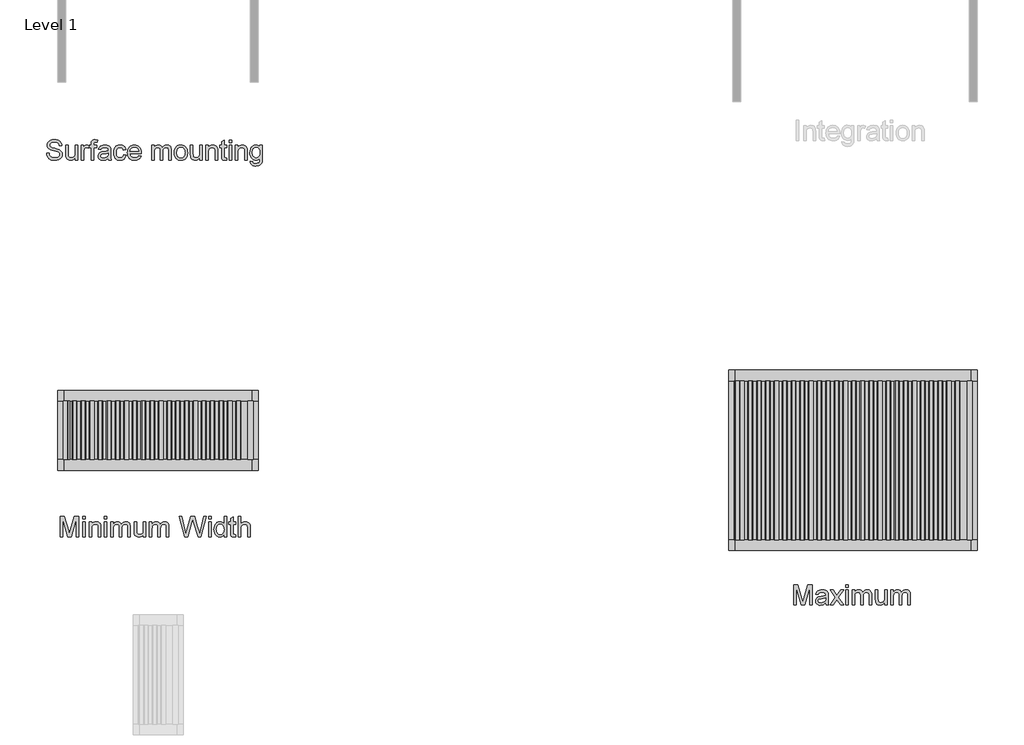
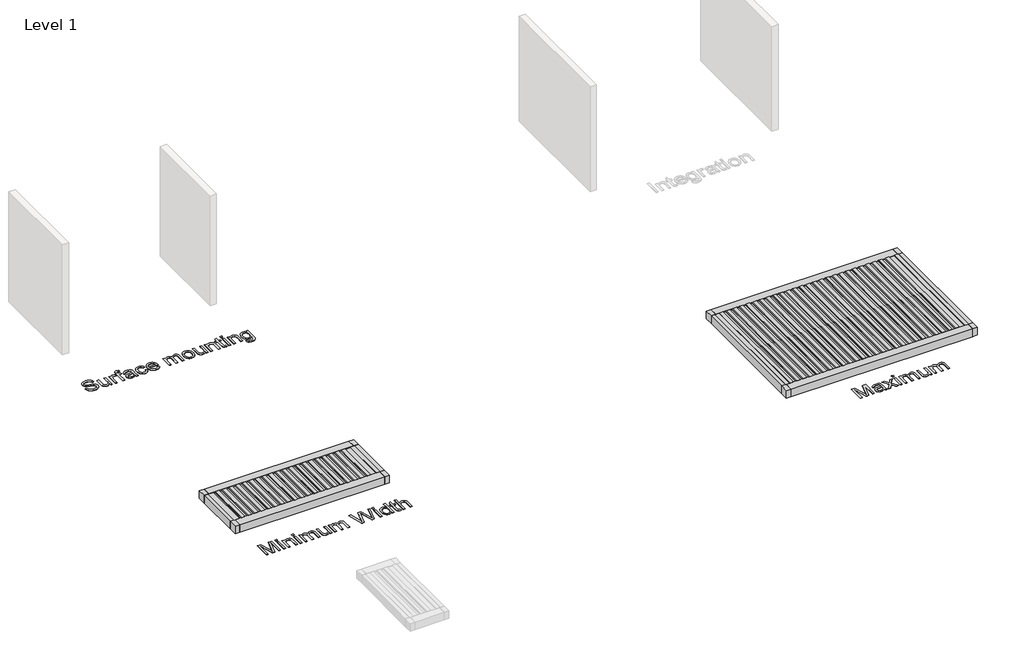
# One storey, part 5 of 12: 5 proxies.
"""IFC4 building model written with IfcOpenShell, lengths in millimetres."""

from ifc_helpers import new_model, si_unit, origin, origin_with_axes, place, context, project, spatial, polyline, outline, extrude, transform, mapped, element, save
from components import generic_models_8f469894, generic_models_3aa09e42

model = new_model("IFC4")

# Units and contexts
model_context = context("Model", 3, world=origin())
ifc_project = project(units=[si_unit("LENGTHUNIT", "METRE", prefix="MILLI")], contexts=[model_context])

# Site, building, storey
site = spatial("IfcSite", under=ifc_project)
building = spatial("IfcBuilding", under=site)
storey = spatial("IfcBuildingStorey", under=building, Name="Level 1", Elevation=0.0)

# Proxies
placement = place(None, origin())
generic_models_shape = generic_models_8f469894(model_context)
element("IfcBuildingElementProxy", 1, Name="Renson_Aero_Skye_Patio covers : Aero Skye - Single", ObjectType="Renson_Aero_Skye_Patio covers : Aero Skye - Single", at=placement, inside=storey, context=model_context, shape_type="MappedRepresentation", body=[
    mapped(generic_models_shape, transform((38903.1736148, -9898.4078371, 0.0), x_axis=(1.0, 0.0, 0.0), y_axis=(0.0, 1.0, 0.0), z_axis=(0.0, 0.0, 1.0))),
])
generic_models_2_shape = generic_models_3aa09e42(model_context)
element("IfcBuildingElementProxy", 2, Name="Renson_Aero_Skye_Patio covers : Aero Skye - Single", ObjectType="Renson_Aero_Skye_Patio covers : Aero Skye - Single", at=placement, inside=storey, context=model_context, shape_type="MappedRepresentation", body=[
    mapped(generic_models_2_shape, transform((56233.8596032, -10648.4078371, 0.0), x_axis=(1.0, 0.0, 0.0), y_axis=(0.0, 1.0, 0.0), z_axis=(0.0, 0.0, 1.0))),
])
element("IfcBuildingElementProxy", 3, Name="500mm Arial", ObjectType="500mm Arial", at=placement, inside=storey, context=model_context, shape_type="SweptSolid", body=[
    extrude(outline(polyline([(36118.8063744, -2981.5334316), (36181.5915683, -2981.5334316), (36188.795924, -3016.3749223), (36201.825078, -3044.3799392), (36222.1505582, -3066.606143), (36251.2438927, -3084.1111946), (36286.8058189, -3095.4695512), (36326.5370744, -3099.2556701), (36361.5165207, -3096.3892562), (36392.1426968, -3087.7900146), (36416.9594031, -3074.1783808), (36434.51044, -3056.2747903), (36444.9490916, -3035.7193838), (36448.4286421, -3014.1523019), (36445.8228113, -2993.1370429), (36438.0053189, -2974.9728694), (36422.1250795, -2959.4758403), (36395.3310075, -2946.4620148), (36303.9123317, -2922.4883714), (36243.9015812, -2906.6234604), (36205.503898, -2891.5249702), (36174.2492568, -2870.4024123), (36152.099695, -2844.8039568), (36138.9019284, -2815.2814267), (36134.5026729, -2782.3866449), (36139.9442607, -2745.6137738), (36156.2690243, -2711.3241062), (36168.405298, -2695.7964203), (36183.0477678, -2682.2614286), (36219.8512958, -2661.1695275), (36264.027792, -2648.3396429), (36312.9254406, -2644.0630147), (36365.9004479, -2648.5389123), (36412.2535792, -2661.9666052), (36450.3293657, -2684.0701817), (36465.6424538, -2698.2719596), (36478.4723384, -2714.5737305), (36496.2839583, -2751.5765278), (36503.3656867, -2793.1778501), (36440.5804929, -2793.1778501), (36436.3805068, -2773.1436098), (36429.0535237, -2755.7152003), (36418.5995437, -2740.8926215), (36405.0185667, -2728.6758736), (36388.0576739, -2719.1262702), (36367.4639463, -2712.3051248), (36315.3779872, -2706.8482086), (36262.0657547, -2712.2438112), (36241.686625, -2718.9883144), (36225.492153, -2728.430619), (36213.1527778, -2739.7813114), (36204.3389383, -2752.2509781), (36199.0506346, -2765.8396193), (36197.2878667, -2780.5472349), (36202.2849305, -2804.6741625), (36217.2761218, -2824.0799377), (36231.0410398, -2832.7098362), (36252.7154207, -2841.4317051), (36319.7925711, -2859.1513546), (36389.0156999, -2875.9819559), (36430.8929337, -2890.6665788), (36466.6847861, -2913.4446057), (36491.6547765, -2941.5569215), (36506.3240711, -2974.6969579), (36511.213836, -3012.5581466), (36505.5883071, -3051.2623981), (36488.7117206, -3087.6673872), (36461.2738551, -3118.9986705), (36423.9644894, -3142.4818045), (36379.0982144, -3157.1510991), (36328.989621, -3162.0408639), (36267.4766857, -3156.7678887), (36240.801409, -3150.1766696), (36216.8469261, -3140.9489629), (36195.4676173, -3129.0694401), (36176.5178624, -3114.5227729), (36159.9976616, -3097.3089612), (36145.9070147, -3077.4280051), (36134.5563223, -3055.5236979), (36126.2559848, -3032.2398333), (36121.0060022, -3007.5764112), (36118.8063744, -2981.5334316)])), origin_with_axes(), (0.0, 0.0, 1.0), 5.0),
    extrude(outline(polyline([(36832.9879544, -3154.1927147), (36832.9879544, -3090.7943842), (36810.2712412, -3121.9647191), (36783.8143944, -3144.229244), (36753.6174139, -3157.587959), (36719.6802999, -3162.0408639), (36689.100109, -3158.913867), (36660.6352397, -3149.5328761), (36636.7535668, -3135.430733), (36619.9229655, -3118.1402792), (36608.5952658, -3097.1403486), (36601.2222974, -3071.9097751), (36597.5434775, -3013.5391652), (36597.5434775, -2785.3297009), (36660.3286713, -2785.3297009), (36660.3286713, -2983.9859783), (36664.1301186, -3047.9974454), (36673.2811832, -3069.3499296), (36688.9621533, -3085.5827226), (36710.1306964, -3095.8374332), (36735.7444803, -3099.2556701), (36762.8297922, -3095.7607911), (36788.1676647, -3085.2761543), (36809.0602963, -3068.7674497), (36822.8098859, -3047.2003678), (36830.4434373, -3017.6625093), (36832.9879544, -2977.241475), (36832.9879544, -2785.3297009), (36895.7731482, -2785.3297009), (36895.7731482, -3154.1927147), (36832.9879544, -3154.1927147)])), origin_with_axes(), (0.0, 0.0, 1.0), 5.0),
    extrude(outline(polyline([(36982.1027898, -3154.1927147), (36982.1027898, -2785.3297009), (37037.0398344, -2785.3297009), (37037.0398344, -2839.8988635), (37057.3346578, -2808.2610119), (37076.0353259, -2789.6216575), (37094.7973076, -2780.5165781), (37115.276072, -2777.4815516), (37146.5460416, -2782.3253313), (37178.3065205, -2796.8566701), (37157.3372468, -2853.1426153), (37135.2643271, -2843.485713), (37113.1914074, -2840.2667455), (37094.4447541, -2843.3630856), (37077.6907949, -2852.652106), (37064.1558031, -2867.4286995), (37055.0660522, -2886.9877589), (37047.4325008, -2922.0591758), (37044.8879836, -2960.3189033), (37044.8879836, -3154.1927147), (36982.1027898, -3154.1927147)])), origin_with_axes(), (0.0, 0.0, 1.0), 5.0),
    extrude(outline(polyline([(37233.2435652, -3154.1927147), (37233.2435652, -2848.1148947), (37178.3065205, -2848.1148947), (37178.3065205, -2785.3297009), (37233.2435652, -2785.3297009), (37233.2435652, -2748.1736194), (37234.8990341, -2717.4248159), (37239.8654411, -2695.8117487), (37252.4960562, -2674.9344455), (37271.993802, -2658.4104125), (37299.2783833, -2647.6498642), (37335.2695051, -2644.0630147), (37392.5364691, -2650.9301453), (37383.3394192, -2709.7912645), (37347.1643563, -2706.8482086), (37323.2980119, -2709.4540394), (37307.6170418, -2717.2715318), (37298.9258297, -2732.2014094), (37296.028759, -2756.1443959), (37296.028759, -2785.3297009), (37366.6621021, -2785.3297009), (37366.6621021, -2848.1148947), (37296.028759, -2848.1148947), (37296.028759, -3154.1927147), (37233.2435652, -3154.1927147)])), origin_with_axes(), (0.0, 0.0, 1.0), 5.0),
    extrude(outline(polyline([(37657.0436236, -3107.1038193), (37627.0459126, -3132.8249022), (37596.1591534, -3149.6555034), (37563.6782389, -3158.9445238), (37528.8980619, -3162.0408639), (37500.9428624, -3160.1784613), (37476.4288924, -3154.5912535), (37455.3561518, -3145.2792405), (37437.7246408, -3132.2424223), (37423.8026065, -3116.3085334), (37413.8582964, -3098.3053083), (37407.8917103, -3078.2327469), (37405.9028482, -3056.0908493), (37408.9072178, -3030.0631982), (37417.9203267, -3006.42678), (37431.8232005, -2986.1932702), (37449.4968646, -2970.3743445), (37470.266869, -2958.4181796), (37493.4587631, -2949.7729527), (37547.782671, -2940.3306482), (37611.9780792, -2930.3978343), (37656.6757416, -2918.7482378), (37657.0436236, -2904.768722), (37652.7210102, -2876.7483767), (37639.7531698, -2858.4155906), (37626.6780306, -2850.4754709), (37610.7518059, -2844.8039568), (37570.3461001, -2840.2667455), (37532.9447639, -2843.2864435), (37506.8251422, -2852.3455377), (37489.0135223, -2869.0994969), (37476.5361913, -2895.2037901), (37413.7509975, -2887.3556409), (37424.6495016, -2853.019988), (37440.9129514, -2826.041975), (37464.0588603, -2805.4099265), (37495.6047414, -2790.1121668), (37534.1863656, -2780.6392054), (37578.439504, -2777.4815516), (37620.8838892, -2780.2713234), (37654.5297633, -2788.6406388), (37679.8982925, -2801.2252688), (37697.5106431, -2816.6609841), (37709.1908964, -2835.7448626), (37716.7631341, -2859.2739819), (37719.8288174, -2914.2110265), (37719.8288174, -2992.3246368), (37723.0171281, -3101.4016484), (37727.7382803, -3128.364333), (37735.5251159, -3154.1927147), (37672.7399221, -3154.1927147), (37662.6844809, -3132.3650497), (37657.0436236, -3107.1038193)]), holes=[polyline([(37657.0436236, -2981.5334316), (37614.8598215, -2991.9874117), (37555.7534476, -3000.7859227), (37501.736108, -3010.9639913), (37487.6799501, -3017.9230923), (37477.2719553, -3027.518681), (37470.8340204, -3039.0149934), (37468.6880421, -3051.6762654), (37473.3632091, -3070.3462766), (37487.3887102, -3085.6440363), (37510.4579769, -3095.8527616), (37542.2644411, -3099.2556701), (37575.9869573, -3095.5002081), (37605.7853989, -3084.233822), (37629.9429833, -3067.6331469), (37646.7429277, -3047.8748181), (37654.1925381, -3027.518681), (37656.6757416, -2999.3143947), (37657.0436236, -2981.5334316)])]), origin_with_axes(), (0.0, 0.0, 1.0), 5.0),
    extrude(outline(polyline([(38041.6029359, -3020.7741778), (38104.3881297, -3028.622327), (38097.5593202, -3058.2483239), (38086.8830781, -3084.4637482), (38072.3594035, -3107.2685998), (38053.9882964, -3126.6628787), (38032.5438418, -3142.1407473), (38008.8001246, -3153.1963676), (37982.7571451, -3159.8297399), (37954.414903, -3162.0408639), (37919.2016983, -3158.9560201), (37887.6289925, -3149.7014887), (37859.6967856, -3134.2772696), (37835.4050776, -3112.6833629), (37815.7425514, -3085.3259716), (37801.6978898, -3052.6112988), (37793.2710928, -3014.5393444), (37790.4621605, -2971.1101084), (37795.2599549, -2915.2380304), (37809.6533379, -2866.8155628), (37820.5058568, -2845.8654496), (37833.8722359, -2827.7127724), (37849.7524754, -2812.3575312), (37868.1465752, -2799.799726), (37909.1500892, -2783.0610952), (37953.5565117, -2777.4815516), (37981.4120765, -2779.3976037), (38006.6081611, -2785.1457599), (38029.1447654, -2794.7260202), (38049.0218895, -2808.1383846), (38065.9023081, -2825.0762848), (38079.4487961, -2845.2331524), (38089.6613536, -2868.6089875), (38096.5399805, -2895.2037901), (38033.7547867, -2903.0519393), (38022.3657732, -2875.6600591), (38004.6307954, -2856.0243576), (37981.5308718, -2844.2061485), (37954.047021, -2840.2667455), (37932.7136974, -2842.2057902), (37913.4727026, -2848.0229242), (37896.3240367, -2857.7181476), (37881.2676997, -2871.2914604), (37869.0087986, -2889.0570951), (37860.2524407, -2911.3292842), (37854.9986259, -2938.1080278), (37853.2473544, -2969.3933258), (37854.9603049, -3001.1499726), (37860.0991565, -3028.2391166), (37868.6639092, -3050.6607578), (37880.654563, -3068.4148962), (37895.4119959, -3081.9077348), (37912.2770862, -3091.5454766), (37931.2498336, -3097.3281217), (37952.3302384, -3099.2556701), (37984.8418097, -3094.4425473), (38011.4979259, -3080.003179), (38022.2776348, -3069.0816823), (38030.8883728, -3055.5696832), (38041.6029359, -3020.7741778)])), origin_with_axes(), (0.0, 0.0, 1.0), 5.0),
    extrude(outline(polyline([(38417.578335, -3044.3186255), (38479.1372555, -3052.1667747), (38469.698783, -3076.8225326), (38456.9570369, -3098.5505629), (38440.9120169, -3117.3508657), (38421.5637232, -3133.223441), (38399.1114252, -3145.8310635), (38373.7543923, -3154.8365082), (38345.4926244, -3160.239775), (38314.3261216, -3162.0408639), (38275.3689512, -3158.9330275), (38240.6577521, -3149.6095182), (38210.1925244, -3134.070336), (38183.973268, -3112.3154809), (38162.8890312, -3084.9504254), (38147.828862, -3052.580642), (38138.7927605, -3015.2061305), (38135.7807267, -2972.8268911), (38138.8234173, -2929.0106126), (38147.9514893, -2890.3906673), (38163.1649427, -2856.9670552), (38184.4637773, -2828.7397763), (38210.6140558, -2806.314303), (38240.3818406, -2790.2961078), (38273.7671317, -2780.6851907), (38310.769929, -2777.4815516), (38346.580942, -2780.6775265), (38378.9660539, -2790.265451), (38407.9252647, -2806.2453251), (38433.4585744, -2828.617149), (38454.3013887, -2856.7831142), (38469.1891132, -2890.1454127), (38478.1217479, -2928.7040443), (38481.0992928, -2972.4590091), (38480.7314108, -2989.3815809), (38198.5659205, -2989.3815809), (38202.2025873, -3014.4358776), (38209.4337678, -3036.3785058), (38220.2594619, -3055.2094654), (38234.6796697, -3070.9287565), (38251.8973135, -3083.3217812), (38271.1153156, -3092.1739417), (38292.3336761, -3097.485238), (38315.552395, -3099.2556701), (38348.9683429, -3095.975389), (38377.1113155, -3086.1345456), (38399.9813129, -3069.1200033), (38417.578335, -3044.3186255)]), holes=[polyline([(38198.5659205, -2926.596387), (38418.3140989, -2926.596387), (38409.8221562, -2893.4256938), (38393.1754959, -2869.6973051), (38376.0536548, -2856.8214353), (38356.5712374, -2847.6243854), (38334.728244, -2842.1061555), (38310.5246744, -2840.2667455), (38268.2029165, -2846.137529), (38249.7896562, -2853.4760084), (38233.2081417, -2863.7498795), (38219.2937717, -2876.4839615), (38208.8819448, -2891.2030734), (38201.9726611, -2907.9072153), (38198.5659205, -2926.596387)])]), origin_with_axes(), (0.0, 0.0, 1.0), 5.0),
    extrude(outline(polyline([(38740.0882174, -3154.1927147), (38740.0882174, -2785.3297009), (38802.8734112, -2785.3297009), (38802.8734112, -2846.0302301), (38821.7580203, -2818.1478405), (38846.038232, -2796.3048471), (38874.8863118, -2782.1873755), (38907.4745252, -2777.4815516), (38942.3926579, -2782.279346), (38970.3823464, -2796.6727291), (38991.2903064, -2819.711339), (39004.9632539, -2850.444814), (39027.8485797, -2818.5233867), (39053.9528729, -2795.7223672), (39083.2761336, -2782.0417555), (39115.8183618, -2777.4815516), (39140.9531327, -2779.3784432), (39163.0145561, -2785.0691178), (39182.002632, -2794.5535755), (39197.9173604, -2807.8318163), (39210.4981582, -2825.0571243), (39219.4844424, -2846.3827837), (39224.8762129, -2871.8087945), (39226.6734697, -2901.3351567), (39226.6734697, -3154.1927147), (39163.8882758, -3154.1927147), (39163.8882758, -2928.3131697), (39162.4320763, -2896.9972148), (39158.0634776, -2875.8899854), (39149.8781032, -2861.4352886), (39136.9715765, -2850.076932), (39120.3709015, -2842.7192921), (39101.103082, -2840.2667455), (39083.3106226, -2841.8379082), (39067.0893259, -2846.5513962), (39052.4391918, -2854.4072097), (39039.3602205, -2865.4053485), (39028.6035042, -2879.8677094), (39020.9201355, -2898.1161892), (39016.3101142, -2920.1507879), (39014.7734405, -2945.9715054), (39014.7734405, -3154.1927147), (38951.9882466, -3154.1927147), (38951.9882466, -2921.3234118), (38948.3554119, -2885.8227992), (38937.4569078, -2860.5002552), (38929.0301109, -2851.6480947), (38918.2810588, -2845.3251229), (38889.8161894, -2840.2667455), (38865.6279482, -2843.6389971), (38843.3404307, -2853.755752), (38824.9463309, -2870.3717554), (38812.4383431, -2893.2417528), (38805.2646442, -2924.9715749), (38802.8734112, -2968.1670525), (38802.8734112, -3154.1927147), (38740.0882174, -3154.1927147)])), origin_with_axes(), (0.0, 0.0, 1.0), 5.0),
    extrude(outline(polyline([(39305.154962, -2969.7612078), (39308.5502062, -2921.9901979), (39318.735939, -2880.8257355), (39335.7121602, -2846.2678205), (39359.4788699, -2818.3164531), (39383.406528, -2800.4511837), (39409.8173896, -2787.690277), (39438.7114547, -2780.033733), (39470.0887232, -2777.4815516), (39504.7271123, -2780.5893881), (39536.0468992, -2789.9128974), (39564.048084, -2805.4520796), (39588.7306666, -2827.2069347), (39608.8760379, -2854.4416986), (39623.2655889, -2886.4206075), (39631.8993195, -2923.1436612), (39634.7772297, -2964.6108599), (39629.6881954, -3028.0398472), (39623.3269026, -3054.0751626), (39614.4210926, -3076.3243591), (39603.0818965, -3095.5423612), (39589.4204453, -3112.4840935), (39573.4367391, -3127.149556), (39555.1307777, -3139.5387486), (39514.4031752, -3156.4153351), (39470.0887232, -3162.0408639), (39434.9444963, -3158.9445238), (39403.3334694, -3149.6555034), (39375.2556426, -3134.1738028), (39350.7110157, -3112.4994219), (39330.7802422, -3085.0002428), (39316.5439754, -3052.0441474), (39308.0022153, -3013.6311357), (39305.154962, -2969.7612078)]), holes=[polyline([(39367.9401558, -2969.6385805), (39369.7565732, -3000.0923119), (39375.2058252, -3026.4610203), (39384.287912, -3048.7447057), (39397.0028334, -3066.9433682), (39412.4692057, -3081.0800003), (39429.8056447, -3091.1775946), (39449.0121505, -3097.2361512), (39470.0887232, -3099.2556701), (39491.0579969, -3097.2246549), (39510.1878606, -3091.1316094), (39527.4783144, -3080.9765335), (39542.9293582, -3066.7594272), (39555.6442797, -3048.3806558), (39564.7263664, -3025.7405847), (39570.1756185, -2998.8392138), (39571.9920358, -2967.6765432), (39570.1641222, -2938.188502), (39564.6803812, -2912.5095723), (39555.5408128, -2890.6397541), (39542.7454172, -2872.5790474), (39527.2368918, -2858.4424153), (39509.9579344, -2848.344821), (39490.9085448, -2842.2862644), (39470.0887232, -2840.2667455), (39449.0121505, -2842.2786002), (39429.8056447, -2848.3141641), (39412.4692057, -2858.3734374), (39397.0028334, -2872.4564201), (39384.287912, -2890.6014331), (39375.2058252, -2912.8467975), (39369.7565732, -2939.1925133), (39367.9401558, -2969.6385805)])]), origin_with_axes(), (0.0, 0.0, 1.0), 5.0),
    extrude(outline(polyline([(39940.8550497, -3154.1927147), (39940.8550497, -3090.7943842), (39918.1383365, -3121.9647191), (39891.6814896, -3144.229244), (39861.4845092, -3157.587959), (39827.5473951, -3162.0408639), (39796.9672043, -3158.913867), (39768.5023349, -3149.5328761), (39744.6206621, -3135.430733), (39727.7900608, -3118.1402792), (39716.462361, -3097.1403486), (39709.0893927, -3071.9097751), (39705.4105727, -3013.5391652), (39705.4105727, -2785.3297009), (39768.1957666, -2785.3297009), (39768.1957666, -2983.9859783), (39771.9972139, -3047.9974454), (39781.1482785, -3069.3499296), (39796.8292485, -3085.5827226), (39817.9977917, -3095.8374332), (39843.6115756, -3099.2556701), (39870.6968875, -3095.7607911), (39896.0347599, -3085.2761543), (39916.9273915, -3068.7674497), (39930.6769811, -3047.2003678), (39938.3105325, -3017.6625093), (39940.8550497, -2977.241475), (39940.8550497, -2785.3297009), (40003.6402435, -2785.3297009), (40003.6402435, -3154.1927147), (39940.8550497, -3154.1927147)])), origin_with_axes(), (0.0, 0.0, 1.0), 5.0),
    extrude(outline(polyline([(40089.969885, -3154.1927147), (40089.969885, -2785.3297009), (40152.7550789, -2785.3297009), (40152.7550789, -2836.8331802), (40174.5674155, -2810.8668427), (40200.7636792, -2792.3194588), (40231.3438701, -2781.1910284), (40266.3079881, -2777.4815516), (40297.2560609, -2780.4705929), (40325.5983029, -2789.4377165), (40349.2347211, -2803.2639481), (40366.0653224, -2820.8303134), (40377.4849927, -2842.0908271), (40384.8886178, -2866.9995038), (40388.1995558, -2927.700033), (40388.1995558, -3154.1927147), (40325.4143619, -3154.1927147), (40325.4143619, -2936.1613189), (40323.6056088, -2903.6957328), (40318.1793494, -2880.6111376), (40308.1698934, -2864.0717763), (40292.6115507, -2851.2418917), (40272.6692809, -2843.010532), (40249.5080436, -2840.2667455), (40230.4433256, -2841.8072513), (40212.7351725, -2846.4287689), (40196.3835842, -2854.1312982), (40181.3885608, -2864.9148392), (40168.8614125, -2880.0056652), (40159.9134494, -2900.6300495), (40154.5446715, -2926.7879922), (40152.7550789, -2958.4794933), (40152.7550789, -3154.1927147), (40089.969885, -3154.1927147)])), origin_with_axes(), (0.0, 0.0, 1.0), 5.0),
    extrude(outline(polyline([(40607.9477342, -3101.8308441), (40615.7958835, -3156.0321247), (40568.8296154, -3162.0408639), (40538.6939486, -3159.4350331), (40516.2224901, -3151.6175407), (40500.3422507, -3139.5694054), (40489.9802411, -3124.2716458), (40484.2780702, -3097.9987399), (40482.3773466, -3053.025166), (40482.3773466, -2848.1148947), (40435.2884512, -2848.1148947), (40435.2884512, -2785.3297009), (40482.3773466, -2785.3297009), (40482.3773466, -2695.6891214), (40545.1625404, -2658.7782945), (40545.1625404, -2785.3297009), (40607.9477342, -2785.3297009), (40607.9477342, -2848.1148947), (40545.1625404, -2848.1148947), (40545.1625404, -3051.1857561), (40548.4734784, -3083.5593716), (40559.2033699, -3095.0250272), (40580.6018393, -3099.2556701), (40607.9477342, -3101.8308441)])), origin_with_axes(), (0.0, 0.0, 1.0), 5.0),
    extrude(outline(polyline([(40670.7329281, -2714.6963578), (40670.7329281, -2651.911164), (40733.5181219, -2651.911164), (40733.5181219, -2714.6963578), (40670.7329281, -2714.6963578)])), origin_with_axes(), (0.0, 0.0, 1.0), 5.0),
    extrude(outline(polyline([(40670.7329281, -3154.1927147), (40670.7329281, -2785.3297009), (40733.5181219, -2785.3297009), (40733.5181219, -3154.1927147), (40670.7329281, -3154.1927147)])), origin_with_axes(), (0.0, 0.0, 1.0), 5.0),
    extrude(outline(polyline([(40827.6959127, -3154.1927147), (40827.6959127, -2785.3297009), (40890.4811065, -2785.3297009), (40890.4811065, -2836.8331802), (40912.2934432, -2810.8668427), (40938.4897069, -2792.3194588), (40969.0698978, -2781.1910284), (41004.0340157, -2777.4815516), (41034.9820886, -2780.4705929), (41063.3243306, -2789.4377165), (41086.9607488, -2803.2639481), (41103.7913501, -2820.8303134), (41115.2110203, -2842.0908271), (41122.6146455, -2866.9995038), (41125.9255834, -2927.700033), (41125.9255834, -3154.1927147), (41063.1403896, -3154.1927147), (41063.1403896, -2936.1613189), (41061.3316365, -2903.6957328), (41055.905377, -2880.6111376), (41045.8959211, -2864.0717763), (41030.3375784, -2851.2418917), (41010.3953085, -2843.010532), (40987.2340713, -2840.2667455), (40968.1693533, -2841.8072513), (40950.4612002, -2846.4287689), (40934.1096119, -2854.1312982), (40919.1145885, -2864.9148392), (40906.5874401, -2880.0056652), (40897.639477, -2900.6300495), (40892.2706992, -2926.7879922), (40890.4811065, -2958.4794933), (40890.4811065, -3154.1927147), (40827.6959127, -3154.1927147)])), origin_with_axes(), (0.0, 0.0, 1.0), 5.0),
    extrude(outline(polyline([(41196.5589265, -3185.5853116), (41259.3441204, -3193.4334609), (41266.2725646, -3213.0538339), (41279.7002574, -3226.5428404), (41306.0957906, -3237.0274773), (41340.6460413, -3240.5223562), (41377.4955545, -3236.5676248), (41404.9027631, -3224.7034305), (41423.9099995, -3205.696194), (41435.5595961, -3180.3123364), (41438.9625045, -3153.3036666), (41439.8515527, -3107.1038193), (41418.958921, -3127.7052111), (41395.6443996, -3142.4204909), (41369.9079883, -3151.2496587), (41341.7496873, -3154.1927147), (41307.325896, -3150.7668136), (41277.0177846, -3140.4891104), (41250.8253529, -3123.359605), (41228.7486011, -3099.3782974), (41211.2320532, -3070.6068597), (41198.7202332, -3039.1069639), (41191.2131413, -3004.8786099), (41188.7107773, -2967.9217978), (41193.2020033, -2917.2307246), (41206.6756814, -2870.6170101), (41228.6566306, -2831.1156809), (41242.659139, -2815.1702956), (41258.66967, -2801.7617633), (41276.4314726, -2791.1391707), (41295.6877958, -2783.5516046), (41316.4386396, -2778.9990649), (41338.684004, -2777.4815516), (41368.0455857, -2780.9151169), (41394.6940378, -2791.2158128), (41418.6293601, -2808.3836392), (41439.8515527, -2832.4185963), (41439.8515527, -2785.3297009), (41502.6367465, -2785.3297009), (41502.6367465, -3103.7928814), (41498.3447899, -3177.3232952), (41492.9798441, -3204.6730222), (41485.4689201, -3225.7457628), (41463.2887014, -3257.8587953), (41431.0836984, -3282.4609037), (41411.3981796, -3291.5813115), (41389.5590182, -3298.0958885), (41339.419768, -3303.3075501), (41308.6594682, -3301.4719722), (41281.0031728, -3295.9652386), (41256.4508818, -3286.7873492), (41235.002595, -3273.9383041), (41217.6776523, -3257.4027749), (41205.4953933, -3237.165433), (41198.4558181, -3213.2262786), (41196.5589265, -3185.5853116)]), holes=[polyline([(41251.4959711, -2963.6298412), (41253.1706006, -2994.6737167), (41258.1944891, -3021.2187019), (41266.5676366, -3043.2647969), (41278.2900431, -3060.8120016), (41292.5416383, -3074.1975413), (41308.502352, -3083.7586411), (41326.1721841, -3089.4953009), (41345.5511346, -3091.4075209), (41364.7384799, -3089.5067972), (41382.3240057, -3083.8046263), (41398.3077119, -3074.3010081), (41412.6895987, -3060.9959426), (41424.5729536, -3043.6211825), (41433.0610642, -3021.9084806), (41438.1539305, -2995.8578368), (41439.8515527, -2965.4692512), (41438.1041132, -2936.349092), (41432.8617948, -2911.0380443), (41424.1245974, -2889.5361081), (41411.892521, -2871.8432834), (41397.2002339, -2858.0285481), (41381.0824039, -2848.16088), (41363.5390313, -2842.2402791), (41344.5701159, -2840.2667455), (41325.9192652, -2842.2096223), (41308.7169498, -2848.0382526), (41292.9631698, -2857.7526366), (41278.6579251, -2871.3527741), (41266.7745702, -2888.7773515), (41258.2864596, -2909.9650552), (41253.1935933, -2934.9158851), (41251.4959711, -2963.6298412)])]), origin_with_axes(), (0.0, 0.0, 1.0), 5.0),
])
element("IfcBuildingElementProxy", 4, Name="500mm Arial", ObjectType="500mm Arial", at=placement, inside=storey, context=model_context, shape_type="SweptSolid", body=[
    extrude(outline(polyline([(54747.3480904, -14254.1927147), (54747.3480904, -13751.911164), (54855.3827697, -13751.911164), (54958.1444737, -14105.9362707), (54978.8684927, -14179.8805517), (55001.3092944, -14099.8049041), (55102.3542158, -13751.911164), (55210.388895, -13751.911164), (55210.388895, -14254.1927147), (55147.6037012, -14254.1927147), (55147.6037012, -13814.6963578), (55021.4201768, -14254.1927147), (54936.3168086, -14254.1927147), (54810.1332843, -13814.6963578), (54810.1332843, -14254.1927147), (54747.3480904, -14254.1927147)])), origin_with_axes(), (0.0, 0.0, 1.0), 5.0),
    extrude(outline(polyline([(55547.8593119, -14207.1038193), (55517.8616009, -14232.8249022), (55486.9748417, -14249.6555034), (55454.4939272, -14258.9445238), (55419.7137503, -14262.0408639), (55391.7585507, -14260.1784613), (55367.2445807, -14254.5912535), (55346.1718402, -14245.2792405), (55328.5403291, -14232.2424223), (55314.6182949, -14216.3085334), (55304.6739847, -14198.3053083), (55298.7073986, -14178.2327469), (55296.7185366, -14156.0908493), (55299.7229062, -14130.0631982), (55308.7360151, -14106.42678), (55322.6388888, -14086.1932702), (55340.312553, -14070.3743445), (55361.0825573, -14058.4181796), (55384.2744514, -14049.7729527), (55438.5983594, -14040.3306482), (55502.7937675, -14030.3978343), (55547.4914299, -14018.7482378), (55547.8593119, -14004.768722), (55543.5366985, -13976.7483767), (55530.5688582, -13958.4155906), (55517.4937189, -13950.4754709), (55501.5674942, -13944.8039568), (55461.1617884, -13940.2667455), (55423.7604522, -13943.2864435), (55397.6408306, -13952.3455377), (55379.8292106, -13969.0994969), (55367.3518796, -13995.2037901), (55304.5666858, -13987.3556409), (55315.4651899, -13953.019988), (55331.7286398, -13926.041975), (55354.8745486, -13905.4099265), (55386.4204297, -13890.1121668), (55425.002054, -13880.6392054), (55469.2551923, -13877.4815516), (55511.6995775, -13880.2713234), (55545.3454516, -13888.6406388), (55570.7139809, -13901.2252688), (55588.3263314, -13916.6609841), (55600.0065847, -13935.7448626), (55607.5788225, -13959.2739819), (55610.6445058, -14014.2110265), (55610.6445058, -14092.3246368), (55613.8328164, -14201.4016484), (55618.5539687, -14228.364333), (55626.3408042, -14254.1927147), (55563.5556104, -14254.1927147), (55553.5001692, -14232.3650497), (55547.8593119, -14207.1038193)]), holes=[polyline([(55547.8593119, -14081.5334316), (55505.6755098, -14091.9874117), (55446.5691359, -14100.7859227), (55392.5517963, -14110.9639913), (55378.4956384, -14117.9230923), (55368.0876436, -14127.518681), (55361.6497087, -14139.0149934), (55359.5037304, -14151.6762654), (55364.1788974, -14170.3462766), (55378.2043985, -14185.6440363), (55401.2736653, -14195.8527616), (55433.0801294, -14199.2556701), (55466.8026457, -14195.5002081), (55496.6010873, -14184.233822), (55520.7586716, -14167.6331469), (55537.5586161, -14147.8748181), (55545.0082265, -14127.518681), (55547.4914299, -14099.3143947), (55547.8593119, -14081.5334316)])]), origin_with_axes(), (0.0, 0.0, 1.0), 5.0),
    extrude(outline(polyline([(55657.7334012, -14254.1927147), (55791.8877021, -14068.7801891), (55665.5815504, -13885.3297009), (55741.1199867, -13885.3297009), (55802.0657706, -13973.6213797), (55830.5153116, -14015.3146725), (55855.1634052, -13981.2242743), (55924.570475, -13885.3297009), (56000.1089113, -13885.3297009), (55867.4261384, -14068.7801891), (55995.2038181, -14254.1927147), (55919.6653817, -14254.1927147), (55842.7780447, -14142.7244702), (55828.6759016, -14122.3683331), (55733.2718375, -14254.1927147), (55657.7334012, -14254.1927147)])), origin_with_axes(), (0.0, 0.0, 1.0), 5.0),
    extrude(outline(polyline([(56050.1408627, -14254.1927147), (56050.1408627, -13885.3297009), (56112.9260565, -13885.3297009), (56112.9260565, -14254.1927147), (56050.1408627, -14254.1927147)])), origin_with_axes(), (0.0, 0.0, 1.0), 5.0),
    extrude(outline(polyline([(56050.1408627, -13814.6963578), (56050.1408627, -13751.911164), (56112.9260565, -13751.911164), (56112.9260565, -13814.6963578), (56050.1408627, -13814.6963578)])), origin_with_axes(), (0.0, 0.0, 1.0), 5.0),
    extrude(outline(polyline([(56207.1038473, -14254.1927147), (56207.1038473, -13885.3297009), (56269.8890411, -13885.3297009), (56269.8890411, -13946.0302301), (56288.7736502, -13918.1478405), (56313.0538619, -13896.3048471), (56341.9019417, -13882.1873755), (56374.4901551, -13877.4815516), (56409.4082878, -13882.279346), (56437.3979763, -13896.6727291), (56458.3059363, -13919.711339), (56471.9788838, -13950.444814), (56494.8642096, -13918.5233867), (56520.9685028, -13895.7223672), (56550.2917635, -13882.0417555), (56582.8339917, -13877.4815516), (56607.9687626, -13879.3784432), (56630.030186, -13885.0691178), (56649.0182619, -13894.5535755), (56664.9329903, -13907.8318163), (56677.5137881, -13925.0571243), (56686.5000723, -13946.3827837), (56691.8918427, -13971.8087945), (56693.6890996, -14001.3351567), (56693.6890996, -14254.1927147), (56630.9039057, -14254.1927147), (56630.9039057, -14028.3131697), (56629.4477062, -13996.9972148), (56625.0791075, -13975.8899854), (56616.8937331, -13961.4352886), (56603.9872064, -13950.076932), (56587.3865314, -13942.7192921), (56568.1187119, -13940.2667455), (56550.3262525, -13941.8379082), (56534.1049557, -13946.5513962), (56519.4548217, -13954.4072097), (56506.3758504, -13965.4053485), (56495.6191341, -13979.8677094), (56487.9357654, -13998.1161892), (56483.3257441, -14020.1507879), (56481.7890704, -14045.9715054), (56481.7890704, -14254.1927147), (56419.0038765, -14254.1927147), (56419.0038765, -14021.3234118), (56415.3710418, -13985.8227992), (56404.4725377, -13960.5002552), (56396.0457407, -13951.6480947), (56385.2966887, -13945.3251229), (56356.8318193, -13940.2667455), (56332.6435781, -13943.6389971), (56310.3560606, -13953.755752), (56291.9619608, -13970.3717554), (56279.453973, -13993.2417528), (56272.2802741, -14024.9715749), (56269.8890411, -14068.1670525), (56269.8890411, -14254.1927147), (56207.1038473, -14254.1927147)])), origin_with_axes(), (0.0, 0.0, 1.0), 5.0),
    extrude(outline(polyline([(57023.3113673, -14254.1927147), (57023.3113673, -14190.7943842), (57000.594654, -14221.9647191), (56974.1378072, -14244.229244), (56943.9408268, -14257.587959), (56910.0037127, -14262.0408639), (56879.4235219, -14258.913867), (56850.9586525, -14249.5328761), (56827.0769797, -14235.430733), (56810.2463784, -14218.1402792), (56798.9186786, -14197.1403486), (56791.5457103, -14171.9097751), (56787.8668903, -14113.5391652), (56787.8668903, -13885.3297009), (56850.6520842, -13885.3297009), (56850.6520842, -14083.9859783), (56854.4535315, -14147.9974454), (56863.6045961, -14169.3499296), (56879.2855661, -14185.5827226), (56900.4541093, -14195.8374332), (56926.0678932, -14199.2556701), (56953.1532051, -14195.7607911), (56978.4910775, -14185.2761543), (56999.3837091, -14168.7674497), (57013.1332987, -14147.2003678), (57020.7668501, -14117.6625093), (57023.3113673, -14077.241475), (57023.3113673, -13885.3297009), (57086.0965611, -13885.3297009), (57086.0965611, -14254.1927147), (57023.3113673, -14254.1927147)])), origin_with_axes(), (0.0, 0.0, 1.0), 5.0),
    extrude(outline(polyline([(57172.4262026, -14254.1927147), (57172.4262026, -13885.3297009), (57235.2113965, -13885.3297009), (57235.2113965, -13946.0302301), (57254.0960056, -13918.1478405), (57278.3762172, -13896.3048471), (57307.224297, -13882.1873755), (57339.8125104, -13877.4815516), (57374.7306431, -13882.279346), (57402.7203316, -13896.6727291), (57423.6282917, -13919.711339), (57437.3012392, -13950.444814), (57460.1865649, -13918.5233867), (57486.2908582, -13895.7223672), (57515.6141189, -13882.0417555), (57548.156347, -13877.4815516), (57573.2911179, -13879.3784432), (57595.3525413, -13885.0691178), (57614.3406172, -13894.5535755), (57630.2553456, -13907.8318163), (57642.8361434, -13925.0571243), (57651.8224276, -13946.3827837), (57657.2141981, -13971.8087945), (57659.0114549, -14001.3351567), (57659.0114549, -14254.1927147), (57596.2262611, -14254.1927147), (57596.2262611, -14028.3131697), (57594.7700615, -13996.9972148), (57590.4014628, -13975.8899854), (57582.2160884, -13961.4352886), (57569.3095618, -13950.076932), (57552.7088867, -13942.7192921), (57533.4410672, -13940.2667455), (57515.6486078, -13941.8379082), (57499.4273111, -13946.5513962), (57484.7771771, -13954.4072097), (57471.6982057, -13965.4053485), (57460.9414895, -13979.8677094), (57453.2581207, -13998.1161892), (57448.6480994, -14020.1507879), (57447.1114257, -14045.9715054), (57447.1114257, -14254.1927147), (57384.3262319, -14254.1927147), (57384.3262319, -14021.3234118), (57380.6933971, -13985.8227992), (57369.794893, -13960.5002552), (57361.3680961, -13951.6480947), (57350.619044, -13945.3251229), (57322.1541747, -13940.2667455), (57297.9659335, -13943.6389971), (57275.6784159, -13953.755752), (57257.2843162, -13970.3717554), (57244.7763283, -13993.2417528), (57237.6026294, -14024.9715749), (57235.2113965, -14068.1670525), (57235.2113965, -14254.1927147), (57172.4262026, -14254.1927147)])), origin_with_axes(), (0.0, 0.0, 1.0), 5.0),
])
element("IfcBuildingElementProxy", 5, Name="500mm Arial", ObjectType="500mm Arial", at=placement, inside=storey, context=model_context, shape_type="SweptSolid", body=[
    extrude(outline(polyline([(36456.2767913, -12554.1927147), (36456.2767913, -12051.911164), (36564.3114706, -12051.911164), (36667.0731746, -12405.9362707), (36687.7971936, -12479.8805517), (36710.2379953, -12399.8049041), (36811.2829167, -12051.911164), (36919.3175959, -12051.911164), (36919.3175959, -12554.1927147), (36856.5324021, -12554.1927147), (36856.5324021, -12114.6963578), (36730.3488777, -12554.1927147), (36645.2455095, -12554.1927147), (36519.0619852, -12114.6963578), (36519.0619852, -12554.1927147), (36456.2767913, -12554.1927147)])), origin_with_axes(), (0.0, 0.0, 1.0), 5.0),
    extrude(outline(polyline([(37021.3435359, -12554.1927147), (37021.3435359, -12185.3297009), (37084.1287298, -12185.3297009), (37084.1287298, -12554.1927147), (37021.3435359, -12554.1927147)])), origin_with_axes(), (0.0, 0.0, 1.0), 5.0),
    extrude(outline(polyline([(37021.3435359, -12114.6963578), (37021.3435359, -12051.911164), (37084.1287298, -12051.911164), (37084.1287298, -12114.6963578), (37021.3435359, -12114.6963578)])), origin_with_axes(), (0.0, 0.0, 1.0), 5.0),
    extrude(outline(polyline([(37178.3065205, -12554.1927147), (37178.3065205, -12185.3297009), (37241.0917144, -12185.3297009), (37241.0917144, -12236.8331802), (37262.904051, -12210.8668427), (37289.1003148, -12192.3194588), (37319.6805056, -12181.1910284), (37354.6446236, -12177.4815516), (37385.5926964, -12180.4705929), (37413.9349384, -12189.4377165), (37437.5713566, -12203.2639481), (37454.4019579, -12220.8303134), (37465.8216282, -12242.0908271), (37473.2252533, -12266.9995038), (37476.5361913, -12327.700033), (37476.5361913, -12554.1927147), (37413.7509975, -12554.1927147), (37413.7509975, -12336.1613189), (37411.9422443, -12303.6957328), (37406.5159849, -12280.6111376), (37396.5065289, -12264.0717763), (37380.9481862, -12251.2418917), (37361.0059164, -12243.010532), (37337.8446791, -12240.2667455), (37318.7799611, -12241.8072513), (37301.071808, -12246.4287689), (37284.7202197, -12254.1312982), (37269.7251963, -12264.9148392), (37257.198048, -12280.0056652), (37248.2500849, -12300.6300495), (37242.881307, -12326.7879922), (37241.0917144, -12358.4794933), (37241.0917144, -12554.1927147), (37178.3065205, -12554.1927147)])), origin_with_axes(), (0.0, 0.0, 1.0), 5.0),
    extrude(outline(polyline([(37562.8658328, -12114.6963578), (37562.8658328, -12051.911164), (37625.6510267, -12051.911164), (37625.6510267, -12114.6963578), (37562.8658328, -12114.6963578)])), origin_with_axes(), (0.0, 0.0, 1.0), 5.0),
    extrude(outline(polyline([(37562.8658328, -12554.1927147), (37562.8658328, -12185.3297009), (37625.6510267, -12185.3297009), (37625.6510267, -12554.1927147), (37562.8658328, -12554.1927147)])), origin_with_axes(), (0.0, 0.0, 1.0), 5.0),
    extrude(outline(polyline([(37719.8288174, -12554.1927147), (37719.8288174, -12185.3297009), (37782.6140113, -12185.3297009), (37782.6140113, -12246.0302301), (37801.4986204, -12218.1478405), (37825.778832, -12196.3048471), (37854.6269118, -12182.1873755), (37887.2151252, -12177.4815516), (37922.133258, -12182.279346), (37950.1229464, -12196.6727291), (37971.0309065, -12219.711339), (37984.703854, -12250.444814), (38007.5891797, -12218.5233867), (38033.693473, -12195.7223672), (38063.0167337, -12182.0417555), (38095.5589618, -12177.4815516), (38120.6937327, -12179.3784432), (38142.7551561, -12185.0691178), (38161.743232, -12194.5535755), (38177.6579604, -12207.8318163), (38190.2387582, -12225.0571243), (38199.2250424, -12246.3827837), (38204.6168129, -12271.8087945), (38206.4140697, -12301.3351567), (38206.4140697, -12554.1927147), (38143.6288759, -12554.1927147), (38143.6288759, -12328.3131697), (38142.1726763, -12296.9972148), (38137.8040776, -12275.8899854), (38129.6187032, -12261.4352886), (38116.7121766, -12250.076932), (38100.1115015, -12242.7192921), (38080.843682, -12240.2667455), (38063.0512226, -12241.8379082), (38046.8299259, -12246.5513962), (38032.1797919, -12254.4072097), (38019.1008205, -12265.4053485), (38008.3441043, -12279.8677094), (38000.6607355, -12298.1161892), (37996.0507143, -12320.1507879), (37994.5140405, -12345.9715054), (37994.5140405, -12554.1927147), (37931.7288467, -12554.1927147), (37931.7288467, -12321.3234118), (37928.096012, -12285.8227992), (37917.1975079, -12260.5002552), (37908.7707109, -12251.6480947), (37898.0216589, -12245.3251229), (37869.5567895, -12240.2667455), (37845.3685483, -12243.6389971), (37823.0810308, -12253.755752), (37804.686931, -12270.3717554), (37792.1789432, -12293.2417528), (37785.0052443, -12324.9715749), (37782.6140113, -12368.1670525), (37782.6140113, -12554.1927147), (37719.8288174, -12554.1927147)])), origin_with_axes(), (0.0, 0.0, 1.0), 5.0),
    extrude(outline(polyline([(38536.0363374, -12554.1927147), (38536.0363374, -12490.7943842), (38513.3196242, -12521.9647191), (38486.8627774, -12544.229244), (38456.6657969, -12557.587959), (38422.7286829, -12562.0408639), (38392.148492, -12558.913867), (38363.6836227, -12549.5328761), (38339.8019498, -12535.430733), (38322.9713485, -12518.1402792), (38311.6436488, -12497.1403486), (38304.2706804, -12471.9097751), (38300.5918605, -12413.5391652), (38300.5918605, -12185.3297009), (38363.3770543, -12185.3297009), (38363.3770543, -12383.9859783), (38367.1785016, -12447.9974454), (38376.3295662, -12469.3499296), (38392.0105363, -12485.5827226), (38413.1790794, -12495.8374332), (38438.7928633, -12499.2556701), (38465.8781752, -12495.7607911), (38491.2160477, -12485.2761543), (38512.1086793, -12468.7674497), (38525.8582689, -12447.2003678), (38533.4918203, -12417.6625093), (38536.0363374, -12377.241475), (38536.0363374, -12185.3297009), (38598.8215312, -12185.3297009), (38598.8215312, -12554.1927147), (38536.0363374, -12554.1927147)])), origin_with_axes(), (0.0, 0.0, 1.0), 5.0),
    extrude(outline(polyline([(38685.1511728, -12554.1927147), (38685.1511728, -12185.3297009), (38747.9363666, -12185.3297009), (38747.9363666, -12246.0302301), (38766.8209757, -12218.1478405), (38791.1011874, -12196.3048471), (38819.9492672, -12182.1873755), (38852.5374806, -12177.4815516), (38887.4556133, -12182.279346), (38915.4453018, -12196.6727291), (38936.3532618, -12219.711339), (38950.0262093, -12250.444814), (38972.9115351, -12218.5233867), (38999.0158283, -12195.7223672), (39028.339089, -12182.0417555), (39060.8813172, -12177.4815516), (39086.0160881, -12179.3784432), (39108.0775115, -12185.0691178), (39127.0655874, -12194.5535755), (39142.9803158, -12207.8318163), (39155.5611136, -12225.0571243), (39164.5473977, -12246.3827837), (39169.9391682, -12271.8087945), (39171.7364251, -12301.3351567), (39171.7364251, -12554.1927147), (39108.9512312, -12554.1927147), (39108.9512312, -12328.3131697), (39107.4950317, -12296.9972148), (39103.126433, -12275.8899854), (39094.9410586, -12261.4352886), (39082.0345319, -12250.076932), (39065.4338569, -12242.7192921), (39046.1660374, -12240.2667455), (39028.373578, -12241.8379082), (39012.1522812, -12246.5513962), (38997.5021472, -12254.4072097), (38984.4231759, -12265.4053485), (38973.6664596, -12279.8677094), (38965.9830909, -12298.1161892), (38961.3730696, -12320.1507879), (38959.8363958, -12345.9715054), (38959.8363958, -12554.1927147), (38897.051202, -12554.1927147), (38897.051202, -12321.3234118), (38893.4183673, -12285.8227992), (38882.5198632, -12260.5002552), (38874.0930662, -12251.6480947), (38863.3440142, -12245.3251229), (38834.8791448, -12240.2667455), (38810.6909036, -12243.6389971), (38788.4033861, -12253.755752), (38770.0092863, -12270.3717554), (38757.5012985, -12293.2417528), (38750.3275996, -12324.9715749), (38747.9363666, -12368.1670525), (38747.9363666, -12554.1927147), (38685.1511728, -12554.1927147)])), origin_with_axes(), (0.0, 0.0, 1.0), 5.0),
    extrude(outline(polyline([(39559.85193, -12554.1927147), (39422.8772004, -12051.911164), (39487.6244316, -12051.911164), (39567.0869426, -12382.023941), (39591.6124089, -12483.9272536), (39617.8546579, -12393.7961648), (39717.4280512, -12051.911164), (39810.7474507, -12051.911164), (39883.0975764, -12299.7410014), (39914.0916345, -12391.7115002), (39936.930975, -12483.9272536), (39960.7206774, -12384.9669969), (40040.9189523, -12051.911164), (40105.6661835, -12051.911164), (39968.5688266, -12554.1927147), (39901.4916762, -12554.1927147), (39781.0716364, -12166.6903465), (39764.271692, -12112.6116932), (39745.3870829, -12177.7268063), (39635.635621, -12554.1927147), (39559.85193, -12554.1927147)])), origin_with_axes(), (0.0, 0.0, 1.0), 5.0),
    extrude(outline(polyline([(40160.6032281, -12114.6963578), (40160.6032281, -12051.911164), (40223.3884219, -12051.911164), (40223.3884219, -12114.6963578), (40160.6032281, -12114.6963578)])), origin_with_axes(), (0.0, 0.0, 1.0), 5.0),
    extrude(outline(polyline([(40160.6032281, -12554.1927147), (40160.6032281, -12185.3297009), (40223.3884219, -12185.3297009), (40223.3884219, -12554.1927147), (40160.6032281, -12554.1927147)])), origin_with_axes(), (0.0, 0.0, 1.0), 5.0),
    extrude(outline(polyline([(40545.1625404, -12554.1927147), (40545.1625404, -12494.9637135), (40526.377566, -12524.3099668), (40503.6225318, -12545.2715763), (40476.8974377, -12557.848542), (40446.2022837, -12562.0408639), (40405.6126369, -12555.970811), (40368.4565554, -12537.7606523), (40337.0026448, -12508.6826462), (40313.5195108, -12470.0090515), (40298.8962015, -12423.3033665), (40294.021765, -12370.1290898), (40298.512991, -12317.613935), (40311.9866691, -12270.1878144), (40322.0880956, -12249.0575923), (40334.4274708, -12230.5485295), (40349.0047949, -12214.6606258), (40365.8200677, -12201.3938813), (40403.7885553, -12183.4596341), (40445.957029, -12177.4815516), (40476.6751756, -12181.7581798), (40503.8371296, -12194.5880644), (40526.8604111, -12214.2544228), (40545.1625404, -12239.0404722), (40545.1625404, -12051.911164), (40607.9477342, -12051.911164), (40607.9477342, -12554.1927147), (40545.1625404, -12554.1927147)]), holes=[polyline([(40356.8069589, -12369.8838351), (40358.577391, -12400.3299023), (40363.8886873, -12426.6756181), (40372.7408478, -12448.9209825), (40385.1338725, -12467.0659955), (40399.9334586, -12481.1489781), (40416.0053033, -12491.2082515), (40433.3494065, -12497.2438154), (40451.9657683, -12499.2556701), (40470.6702685, -12497.3357859), (40487.9109049, -12491.5761334), (40503.6876775, -12481.9767126), (40518.0005864, -12468.5375235), (40529.8839413, -12451.1512671), (40538.3720519, -12429.7106446), (40543.4649183, -12404.2156559), (40545.1625404, -12374.6663011), (40543.4342614, -12342.2696929), (40538.2494246, -12314.486938), (40529.6080298, -12291.3180365), (40517.5100771, -12272.7629884), (40502.8829357, -12258.5458821), (40486.6539747, -12248.3908062), (40468.8231943, -12242.2977607), (40449.3905943, -12240.2667455), (40430.4063505, -12242.2172865), (40413.0622473, -12248.0689095), (40397.3582846, -12257.8216145), (40383.2944625, -12271.4754014), (40371.7061797, -12289.3291745), (40363.4288348, -12311.6818378), (40358.4624278, -12338.5333914), (40356.8069589, -12369.8838351)])]), origin_with_axes(), (0.0, 0.0, 1.0), 5.0),
    extrude(outline(polyline([(40835.5440619, -12501.8308441), (40843.3922112, -12556.0321247), (40796.4259431, -12562.0408639), (40766.2902763, -12559.4350331), (40743.8188178, -12551.6175407), (40727.9385783, -12539.5694054), (40717.5765688, -12524.2716458), (40711.8743979, -12497.9987399), (40709.9736742, -12453.025166), (40709.9736742, -12248.1148947), (40662.8847789, -12248.1148947), (40662.8847789, -12185.3297009), (40709.9736742, -12185.3297009), (40709.9736742, -12095.6891214), (40772.7588681, -12058.7782945), (40772.7588681, -12185.3297009), (40835.5440619, -12185.3297009), (40835.5440619, -12248.1148947), (40772.7588681, -12248.1148947), (40772.7588681, -12451.1857561), (40776.069806, -12483.5593716), (40786.7996976, -12495.0250272), (40808.1981669, -12499.2556701), (40835.5440619, -12501.8308441)])), origin_with_axes(), (0.0, 0.0, 1.0), 5.0),
    extrude(outline(polyline([(40898.3292558, -12554.1927147), (40898.3292558, -12051.911164), (40961.1144496, -12051.911164), (40961.1144496, -12236.5879255), (40984.1760522, -12210.728887), (41010.0734118, -12192.2581451), (41038.8065285, -12181.1757), (41070.3754022, -12177.4815516), (41108.2979045, -12181.5129252), (41140.8861179, -12193.6070458), (41166.5458871, -12212.8135516), (41183.6830567, -12238.1820809), (41193.3399591, -12273.0388999), (41196.5589265, -12320.7102751), (41196.5589265, -12554.1927147), (41133.7737327, -12554.1927147), (41133.7737327, -12327.2095237), (41128.7766689, -12287.9074639), (41122.5303392, -12272.9009441), (41113.7854776, -12260.9907646), (41102.7490178, -12251.9240062), (41089.6278933, -12245.4477503), (41057.1316504, -12240.2667455), (41030.5981614, -12243.7616244), (41005.6894847, -12254.2462613), (40985.0574361, -12270.7089806), (40971.3538318, -12292.1381068), (40963.6742952, -12320.6183046), (40961.1144496, -12358.2342386), (40961.1144496, -12554.1927147), (40898.3292558, -12554.1927147)])), origin_with_axes(), (0.0, 0.0, 1.0), 5.0),
])

save(model, "model.ifc")
